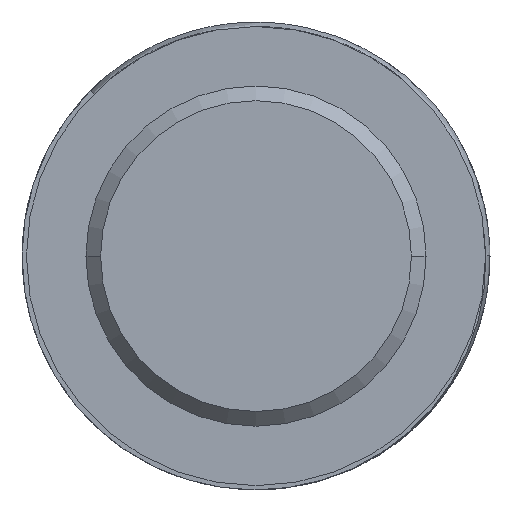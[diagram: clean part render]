
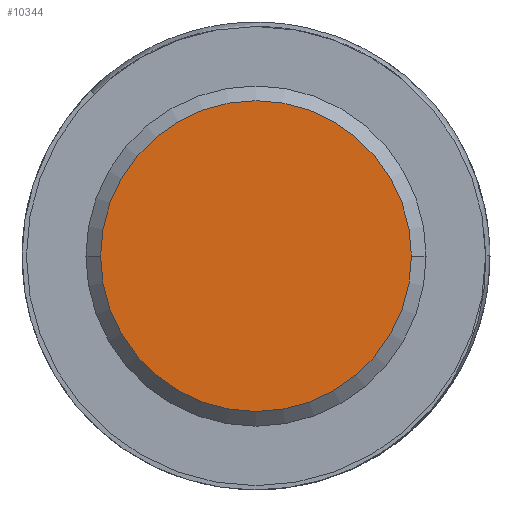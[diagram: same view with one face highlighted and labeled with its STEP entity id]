
A CAD part, front view. The second image highlights one B-rep face of the part: STEP entity #10344.
In plain terms, the highlighted planar face has unit normal (0, 1, 0).
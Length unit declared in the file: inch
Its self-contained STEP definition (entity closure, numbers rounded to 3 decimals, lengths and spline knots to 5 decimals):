
#70=CARTESIAN_POINT('',(0.,-0.3,0.));
#71=DIRECTION('',(0.,1.,0.));
#72=DIRECTION('',(1.,0.,0.));
#73=AXIS2_PLACEMENT_3D('',#70,#71,#72);
#79=CARTESIAN_POINT('',(0.,-0.3,0.));
#80=DIRECTION('',(0.,1.,0.));
#81=DIRECTION('',(-1.,0.,0.));
#82=AXIS2_PLACEMENT_3D('',#79,#80,#81);
#9473=CARTESIAN_POINT('',(0.2115,-0.3,0.));
#9474=CARTESIAN_POINT('',(-0.2115,-0.3,0.));
#9475=VERTEX_POINT('',#9473);
#9476=VERTEX_POINT('',#9474);
#10333=CARTESIAN_POINT('',(0.,-0.3,0.));
#10334=DIRECTION('',(0.,1.,0.));
#10335=DIRECTION('',(1.,0.,0.));
#10336=AXIS2_PLACEMENT_3D('',#10333,#10334,#10335);
#10337=PLANE('',#10336);
#10339=ORIENTED_EDGE('',*,*,#10338,.F.);
#10341=ORIENTED_EDGE('',*,*,#10340,.F.);
#10342=EDGE_LOOP('',(#10339,#10341));
#10343=FACE_OUTER_BOUND('',#10342,.F.);
#74=CIRCLE('',#73,0.2115);
#83=CIRCLE('',#82,0.2115);
#10338=EDGE_CURVE('',#9475,#9476,#74,.T.);
#10340=EDGE_CURVE('',#9476,#9475,#83,.T.);
#10344=ADVANCED_FACE('',(#10343),#10337,.T.);
